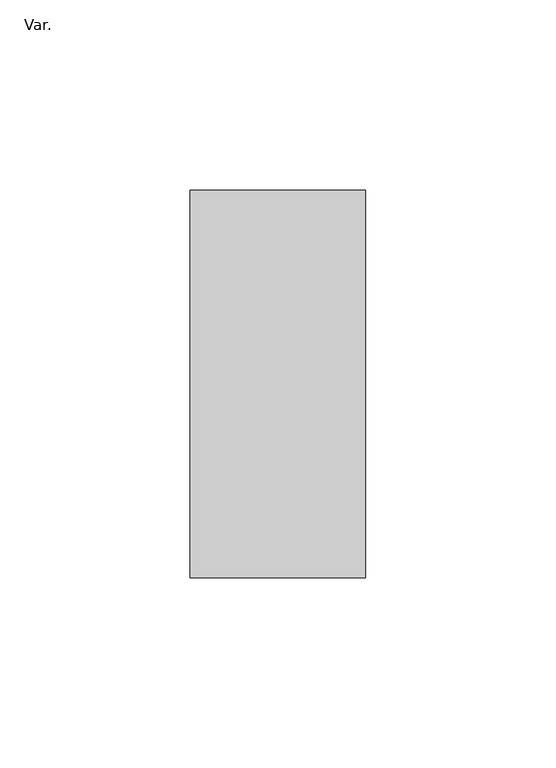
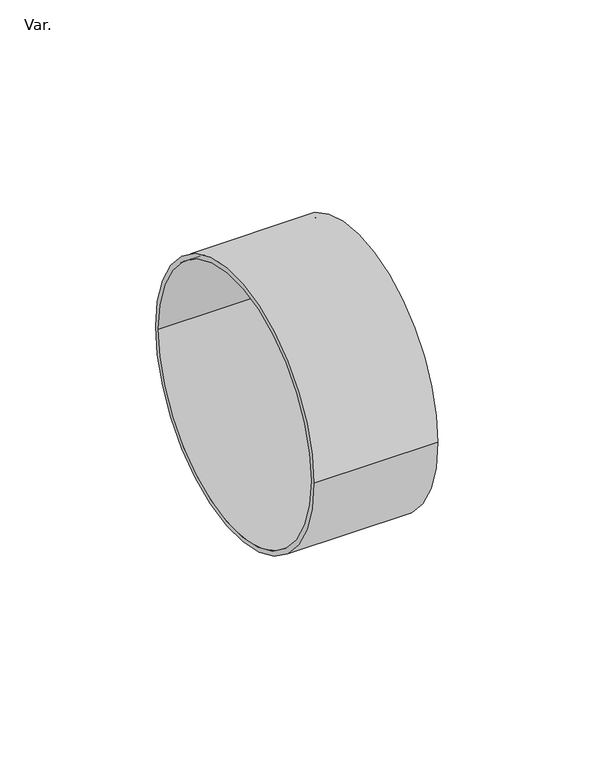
"""IFC4 building model written with IfcOpenShell, lengths in millimetres: pipe fitting geometry, AmancoWavin_ConexõesdeTubos_EsgotoZNãoUsarEsgotoCaixaSifProlongamento : Var.."""

from ifc_helpers import new_model, si_unit, point, frame, origin, origin_2d, place, context, project, spatial, circle_curve, trimmed, segment, composite_curve, outline, extrude, source, transform, mapped, element, save


def var_c44c6f17(model_context):
    return source(origin(), model_context, "Body", "SweptSolid", [
        extrude(outline(composite_curve([segment(trimmed(circle_curve(origin_2d(), 50.8), [point((-50.8, 0.0))], [point((50.8, 0.0))], False, "CARTESIAN"), True, "CONTINUOUS"), segment(trimmed(circle_curve(origin_2d(), 50.8), [point((50.8, 0.0))], [point((-50.8, 0.0))], False, "CARTESIAN"), True, "CONTINUOUS")], self_intersect=False), holes=[composite_curve([segment(trimmed(circle_curve(origin_2d(), 49.0), [point((-49.0, 0.0))], [point((49.0, 0.0))], True, "CARTESIAN"), True, "CONTINUOUS"), segment(trimmed(circle_curve(origin_2d(), 49.0), [point((49.0, 0.0))], [point((-49.0, 0.0))], True, "CARTESIAN"), True, "CONTINUOUS")], self_intersect=False)]), frame((0.0, 0.0, 0.0), z_axis=(1.0, 0.0, 0.0), x_axis=(0.0, 1.0, 0.0)), (0.0, 0.0, 1.0), 45.986551),
    ])


if __name__ == "__main__":
    model = new_model("IFC4")
    model_context = context("Model", 3, world=origin())
    ifc_project = project(units=[si_unit("LENGTHUNIT", "METRE", prefix="MILLI")], contexts=[model_context])
    site = spatial("IfcSite", under=ifc_project)
    building = spatial("IfcBuilding", under=site)
    placement = place(None, origin())
    var_shape = var_c44c6f17(model_context)
    element("IfcPipeFitting", 1, ObjectType="AmancoWavin_ConexõesdeTubos_EsgotoZNãoUsarEsgotoCaixaSifProlongamento : Var.", at=placement, inside=building, context=model_context, shape_type="MappedRepresentation", body=[
        mapped(var_shape, transform((0.0, 0.0, 0.0), x_axis=(1.0, 0.0, 0.0), y_axis=(0.0, 1.0, 0.0), z_axis=(0.0, 0.0, 1.0))),
    ])
    save(model, "model.ifc")
